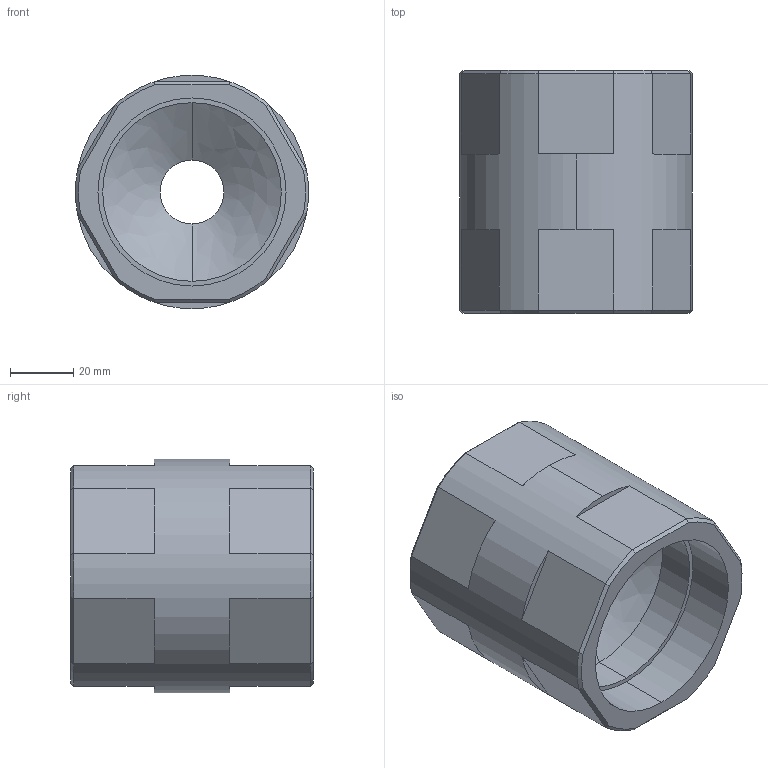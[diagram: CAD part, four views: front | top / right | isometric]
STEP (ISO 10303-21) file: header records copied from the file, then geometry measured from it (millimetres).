
FILE_DESCRIPTION( (''), '2;1');
FILE_NAME ('PC1276.13840.CF-60 50A_12294.stp','2025-12-10T12:53:30',(''),(''),'spGate 20.6.3 (****-****-****-****)','','');
FILE_SCHEMA (('AUTOMOTIVE_DESIGN'));
Length unit declared in the file: millimetre
Bounding box: 73.85 x 77 x 74 mm (x, y, z)
Volume: 144692.9 mm3; surface area: 36393.6 mm2
Topology: 1 solids, 1 shells, 66 faces, 156 edges, 94 vertices
Faces by surface type: plane 40, bspline 16, cylinder 10
Entity records: 3211 total; most frequent: CARTESIAN_POINT 498, ORIENTED_EDGE 312, DIRECTION 276, COLOUR_RGB 223, PRESENTATION_STYLE_ASSIGNMENT 223, STYLED_ITEM 223, EDGE_CURVE 156, DRAUGHTING_PRE_DEFINED_CURVE_FONT 156
